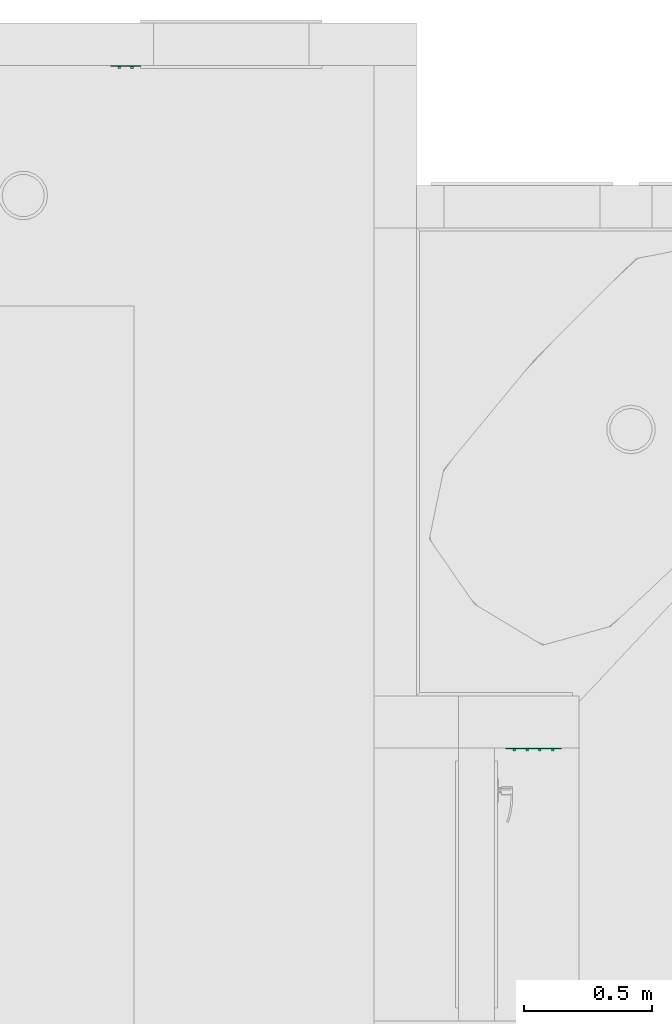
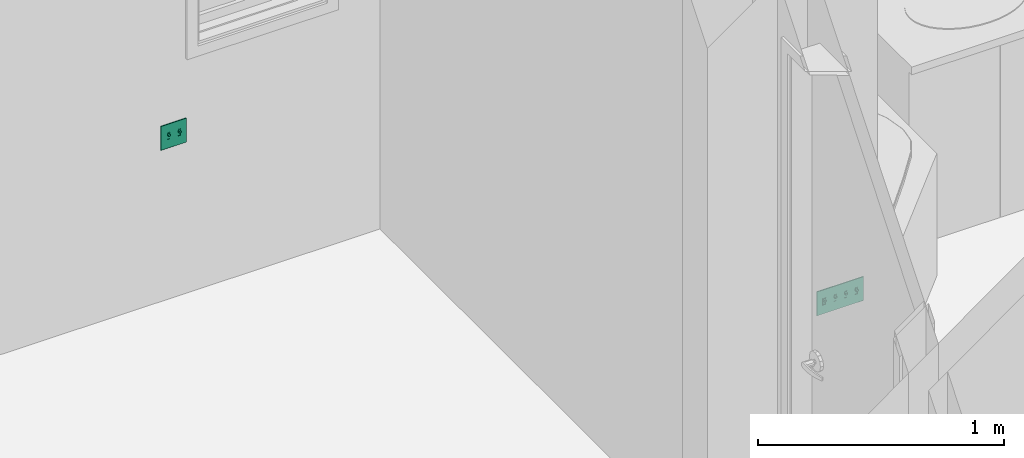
# One storey, part 25 of 103: 2 flow controllers.
"""IFC2X3 building model written with IfcOpenShell, lengths in inches."""

from ifc_helpers import new_model, entity, si_unit, converted_unit, derived_unit, money_unit, direction, frame, origin_with_axes, place, context, subcontext, project, spatial, faceted_brep, source, transform, mapped, type_object, element, save


model = new_model("IFC2X3")

# Units and contexts
model_context = context("Model", 3, precision=0.00039370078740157, world=origin_with_axes(), true_north=direction((0.0, 1.0)))
plan_context = context("Plan", 3, precision=0.00039370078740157, world=origin_with_axes(), true_north=direction((0.0, 1.0)))
body_context = subcontext(model_context, "Body", "Model", "MODEL_VIEW")
ifc_project = project(units=[converted_unit("LENGTHUNIT", "INCH", entity("IfcPositiveLengthMeasure", 0.0254), si_unit("LENGTHUNIT", "METRE"), dimensions=[1, 0, 0, 0, 0, 0, 0]), converted_unit("AREAUNIT", "SQUARE_FOOT", entity("IfcPositiveLengthMeasure", 0.09290304), si_unit("AREAUNIT", "SQUARE_METRE"), dimensions=[2, 0, 0, 0, 0, 0, 0]), si_unit("PLANEANGLEUNIT", "RADIAN"), si_unit("SOLIDANGLEUNIT", "STERADIAN"), money_unit("USD"), converted_unit("TIMEUNIT", "Year", entity("IfcTimeMeasure", 31557600.0), si_unit("TIMEUNIT", "SECOND"), dimensions=[0, 0, 1, 0, 0, 0, 0]), si_unit("MASSUNIT", "GRAM", prefix="KILO"), si_unit("THERMODYNAMICTEMPERATUREUNIT", "DEGREE_CELSIUS"), si_unit("LUMINOUSINTENSITYUNIT", "LUMEN"), si_unit("ENERGYUNIT", "JOULE", prefix="MEGA"), derived_unit("SPECIFICHEATCAPACITYUNIT", [(si_unit("ENERGYUNIT", "JOULE"), 1), (si_unit("MASSUNIT", "GRAM", prefix="KILO"), -1), (si_unit("THERMODYNAMICTEMPERATUREUNIT", "KELVIN"), -1)])], contexts=[model_context, plan_context])

# Site, building, storey
site_placement = place(None, origin_with_axes())
site = spatial("IfcSite", under=ifc_project, at=site_placement, Name="Site", CompositionType="ELEMENT")
building_placement = place(site_placement, origin_with_axes())
building = spatial("IfcBuilding", under=site, at=building_placement, Name="Building", CompositionType="ELEMENT")
storey_placement = place(building_placement, frame((0.0, 0.0, 127.9999999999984), z_axis=(0.0, 0.0, 1.0), x_axis=(1.0, 0.0, 0.0)))
storey = spatial("IfcBuildingStorey", under=building, at=storey_placement, Name="Second Floor", CompositionType="ELEMENT", Elevation=128.0)

# Flow controllers
switching_device_type = type_object("IfcSwitchingDeviceType", Name="Switch US", PredefinedType="NOTDEFINED")
shared_shape_1 = source(origin_with_axes(), body_context, "Body", "Brep", [
    faceted_brep([(3.14960629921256, 0.0, -0.5905511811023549), (2.755905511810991, 0.0, -0.5905511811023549), (2.755905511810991, 0.0, 0.5905511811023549), (3.14960629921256, 0.0, 0.5905511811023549), (3.14960629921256, -0.1033464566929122, -0.5905511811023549), (2.755905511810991, -0.1033464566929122, -0.5905511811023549), (2.755905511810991, -0.1033464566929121, 0.157480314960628), (2.755905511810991, -0.4970472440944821, 0.1574803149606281), (2.755905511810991, -0.4970472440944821, 0.472440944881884), (2.755905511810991, -0.1033464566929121, 0.472440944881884), (2.755905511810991, -0.1033464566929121, 0.5905511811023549), (3.14960629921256, -0.103346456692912, 0.5905511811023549), (3.14960629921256, -0.1033464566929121, 0.472440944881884), (3.14960629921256, -0.4970472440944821, 0.472440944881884), (3.14960629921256, -0.4970472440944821, 0.1574803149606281), (3.14960629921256, -0.1033464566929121, 0.157480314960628)], [[[0, 1, 2, 3]], [[4, 5, 1, 0]], [[1, 5, 6, 7, 8, 9, 10, 2]], [[3, 2, 10, 11]], [[0, 3, 11, 12, 13, 14, 15, 4]], [[15, 6, 5, 4]], [[14, 7, 6, 15]], [[13, 8, 7, 14]], [[12, 9, 8, 13]], [[11, 10, 9, 12]]]),
    faceted_brep([(3.228346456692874, 0.0, -0.669291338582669), (3.228346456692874, -0.1771653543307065, -0.669291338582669), (2.677165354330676, -0.1771653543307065, -0.669291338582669), (2.677165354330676, 0.0, -0.669291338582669), (3.228346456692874, 0.0, 0.669291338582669), (3.228346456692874, -0.1771653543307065, 0.669291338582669), (2.677165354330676, -0.1771653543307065, 0.669291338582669), (3.14960629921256, -0.1771653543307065, -0.5905511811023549), (2.75590551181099, -0.1771653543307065, -0.5905511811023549), (2.75590551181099, -0.1771653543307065, 0.5905511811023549), (3.14960629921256, -0.1771653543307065, 0.5905511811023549), (2.677165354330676, 0.0, 0.669291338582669), (3.14960629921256, 0.0, -0.5905511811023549), (3.14960629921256, 0.0, 0.5905511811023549), (2.75590551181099, 0.0, 0.5905511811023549), (2.75590551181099, 0.0, -0.5905511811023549)], [[[0, 1, 2, 3]], [[4, 5, 1, 0]], [[1, 5, 6, 2], [7, 8, 9, 10]], [[3, 2, 6, 11]], [[0, 3, 11, 4], [12, 13, 14, 15]], [[11, 6, 5, 4]], [[15, 8, 7, 12]], [[14, 9, 8, 15]], [[13, 10, 9, 14]], [[12, 7, 10, 13]]]),
    faceted_brep([(1.968503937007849, -0.103346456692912, 2.362204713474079), (4.330708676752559, -0.103346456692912, 2.362204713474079), (4.330708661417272, 0.0, 2.36220472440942), (1.968503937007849, 0.0, 2.36220472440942), (1.968503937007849, -0.1122624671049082, 2.361030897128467), (4.329534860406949, -0.1122624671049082, 2.361030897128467), (4.330708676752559, -0.1033464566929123, -2.36220473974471), (4.330708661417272, 0.0, -2.36220472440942), (1.968503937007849, 0.0, -2.36220472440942), (2.677165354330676, 0.0, -0.669291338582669), (3.228346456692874, 0.0, -0.669291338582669), (3.228346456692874, 0.0, 0.669291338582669), (2.677165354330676, 0.0, 0.669291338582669), (1.968503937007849, -0.1033464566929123, -2.36220473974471), (1.968503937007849, -0.1122624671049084, -2.361030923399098), (1.968503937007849, -0.1277054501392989, -2.352114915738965), (1.968503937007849, -0.1366214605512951, -2.336671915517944), (1.968503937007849, -0.1377952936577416, -2.327755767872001), (1.968503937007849, -0.1377952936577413, 2.32775574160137), (1.968503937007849, -0.1366214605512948, 2.336671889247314), (1.968503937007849, -0.1277054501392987, 2.352114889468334), (4.320618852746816, -0.1277054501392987, 2.352114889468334), (4.329534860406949, -0.1122624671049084, -2.361030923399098), (2.677165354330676, -0.1377952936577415, -0.669291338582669), (3.228346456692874, -0.1377952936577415, -0.669291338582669), (3.228346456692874, -0.1377952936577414, 0.669291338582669), (2.677165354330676, -0.1377952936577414, 0.669291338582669), (4.320618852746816, -0.1277054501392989, -2.352114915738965), (4.305175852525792, -0.1366214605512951, -2.336671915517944), (4.296259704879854, -0.1377952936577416, -2.327755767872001), (4.296259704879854, -0.1377952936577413, 2.32775574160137), (4.305175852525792, -0.1366214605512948, 2.336671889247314)], [[[0, 1, 2, 3]], [[4, 5, 1, 0]], [[6, 7, 2, 1]], [[3, 2, 7, 8], [9, 10, 11, 12]], [[8, 13, 14, 15, 16, 17, 18, 19, 20, 4, 0, 3]], [[20, 21, 5, 4]], [[22, 6, 1, 5]], [[8, 7, 6, 13]], [[10, 9, 23, 24]], [[11, 10, 24, 25]], [[12, 11, 25, 26]], [[9, 12, 26, 23]], [[13, 6, 22, 14]], [[14, 22, 27, 15]], [[15, 27, 28, 16]], [[16, 28, 29, 17]], [[17, 29, 30, 18], [25, 24, 23, 26]], [[18, 30, 31, 19]], [[19, 31, 21, 20]], [[27, 22, 5, 21]], [[28, 27, 21, 31]], [[29, 28, 31, 30]]]),
    faceted_brep([(1.18110236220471, 0.0, -0.5905511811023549), (0.7874015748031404, 0.0, -0.5905511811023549), (0.7874015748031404, 0.0, 0.5905511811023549), (1.18110236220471, 0.0, 0.5905511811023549), (1.18110236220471, -0.1033464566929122, -0.5905511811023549), (0.7874015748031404, -0.1033464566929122, -0.5905511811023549), (0.7874015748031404, -0.1033464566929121, 0.157480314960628), (0.7874015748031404, -0.4970472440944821, 0.1574803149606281), (0.7874015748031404, -0.4970472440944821, 0.472440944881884), (0.7874015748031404, -0.1033464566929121, 0.472440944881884), (0.7874015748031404, -0.1033464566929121, 0.5905511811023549), (1.18110236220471, -0.103346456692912, 0.5905511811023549), (1.18110236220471, -0.1033464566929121, 0.472440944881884), (1.18110236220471, -0.4970472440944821, 0.472440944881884), (1.18110236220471, -0.4970472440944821, 0.1574803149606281), (1.18110236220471, -0.1033464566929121, 0.157480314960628)], [[[0, 1, 2, 3]], [[4, 5, 1, 0]], [[1, 5, 6, 7, 8, 9, 10, 2]], [[3, 2, 10, 11]], [[0, 3, 11, 12, 13, 14, 15, 4]], [[15, 6, 5, 4]], [[14, 7, 6, 15]], [[13, 8, 7, 14]], [[12, 9, 8, 13]], [[11, 10, 9, 12]]]),
    faceted_brep([(1.259842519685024, 0.0, -0.669291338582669), (1.259842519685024, -0.1771653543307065, -0.669291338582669), (0.7086614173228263, -0.1771653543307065, -0.669291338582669), (0.7086614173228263, 0.0, -0.669291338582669), (1.259842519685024, 0.0, 0.669291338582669), (1.259842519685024, -0.1771653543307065, 0.669291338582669), (0.7086614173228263, -0.1771653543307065, 0.669291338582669), (1.18110236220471, -0.1771653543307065, -0.5905511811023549), (0.7874015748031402, -0.1771653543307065, -0.5905511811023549), (0.7874015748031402, -0.1771653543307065, 0.5905511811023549), (1.18110236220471, -0.1771653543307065, 0.5905511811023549), (0.7086614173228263, 0.0, 0.669291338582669), (1.18110236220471, 0.0, -0.5905511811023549), (1.18110236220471, 0.0, 0.5905511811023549), (0.7874015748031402, 0.0, 0.5905511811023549), (0.7874015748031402, 0.0, -0.5905511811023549)], [[[0, 1, 2, 3]], [[4, 5, 1, 0]], [[1, 5, 6, 2], [7, 8, 9, 10]], [[3, 2, 6, 11]], [[0, 3, 11, 4], [12, 13, 14, 15]], [[11, 6, 5, 4]], [[15, 8, 7, 12]], [[14, 9, 8, 15]], [[13, 10, 9, 14]], [[12, 7, 10, 13]]]),
    faceted_brep([(1.968503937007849, 0.0, -2.36220472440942), (0.0, 0.0, -2.36220472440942), (0.0, 0.0, 2.36220472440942), (1.968503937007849, 0.0, 2.36220472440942), (0.7086614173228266, 0.0, 0.669291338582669), (0.7086614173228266, 0.0, -0.669291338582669), (1.259842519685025, 0.0, -0.669291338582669), (1.259842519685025, 0.0, 0.669291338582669), (1.968503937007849, -0.1033464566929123, -2.36220473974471), (0.0, -0.1033464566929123, -2.36220473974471), (0.0, -0.1277054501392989, -2.352114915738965), (0.0, -0.1366214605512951, -2.336671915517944), (0.0, -0.1377952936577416, -2.327755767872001), (0.0, -0.1377952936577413, 2.32775574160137), (0.0, -0.1366214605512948, 2.336671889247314), (0.0, -0.1277054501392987, 2.352114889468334), (0.0, -0.1122624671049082, 2.361030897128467), (0.0, -0.103346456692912, 2.362204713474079), (0.0, -0.1122624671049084, -2.361030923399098), (1.968503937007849, -0.103346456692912, 2.362204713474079), (1.968503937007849, -0.1122624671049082, 2.361030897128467), (1.968503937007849, -0.1277054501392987, 2.352114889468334), (1.968503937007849, -0.1366214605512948, 2.336671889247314), (1.968503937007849, -0.1377952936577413, 2.32775574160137), (1.968503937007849, -0.1377952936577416, -2.327755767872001), (1.968503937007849, -0.1366214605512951, -2.336671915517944), (1.968503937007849, -0.1277054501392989, -2.352114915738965), (1.968503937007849, -0.1122624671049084, -2.361030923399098), (0.7086614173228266, -0.1377952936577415, -0.669291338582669), (0.7086614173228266, -0.1377952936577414, 0.669291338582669), (1.259842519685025, -0.1377952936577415, -0.669291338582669), (1.259842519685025, -0.1377952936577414, 0.669291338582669)], [[[0, 1, 2, 3], [4, 5, 6, 7]], [[8, 9, 1, 0]], [[10, 11, 12, 13, 14, 15, 16, 17, 2, 1, 9, 18]], [[3, 2, 17, 19]], [[19, 20, 21, 22, 23, 24, 25, 26, 27, 8, 0, 3]], [[28, 5, 4, 29]], [[30, 6, 5, 28]], [[31, 7, 6, 30]], [[29, 4, 7, 31]], [[27, 18, 9, 8]], [[25, 11, 10, 26]], [[24, 12, 11, 25]], [[23, 13, 12, 24], [29, 31, 30, 28]], [[22, 14, 13, 23]], [[21, 15, 14, 22]], [[20, 16, 15, 21]], [[19, 17, 16, 20]], [[26, 10, 18, 27]]]),
    faceted_brep([(-0.7874015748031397, 0.0, -0.5905511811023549), (-1.18110236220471, 0.0, -0.5905511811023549), (-1.18110236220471, 0.0, 0.5905511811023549), (-0.7874015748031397, 0.0, 0.5905511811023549), (-0.7874015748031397, -0.1033464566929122, -0.5905511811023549), (-1.18110236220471, -0.1033464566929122, -0.5905511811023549), (-1.18110236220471, -0.1033464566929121, 0.157480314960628), (-1.18110236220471, -0.4970472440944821, 0.1574803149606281), (-1.18110236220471, -0.4970472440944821, 0.472440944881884), (-1.18110236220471, -0.1033464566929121, 0.472440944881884), (-1.18110236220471, -0.1033464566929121, 0.5905511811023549), (-0.7874015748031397, -0.103346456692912, 0.5905511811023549), (-0.7874015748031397, -0.1033464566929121, 0.472440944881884), (-0.7874015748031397, -0.4970472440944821, 0.472440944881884), (-0.7874015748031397, -0.4970472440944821, 0.1574803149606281), (-0.7874015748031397, -0.1033464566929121, 0.157480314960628)], [[[0, 1, 2, 3]], [[4, 5, 1, 0]], [[1, 5, 6, 7, 8, 9, 10, 2]], [[3, 2, 10, 11]], [[0, 3, 11, 12, 13, 14, 15, 4]], [[15, 6, 5, 4]], [[14, 7, 6, 15]], [[13, 8, 7, 14]], [[12, 9, 8, 13]], [[11, 10, 9, 12]]]),
    faceted_brep([(-0.7086614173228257, 0.0, -0.669291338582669), (-0.7086614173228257, -0.1771653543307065, -0.669291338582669), (-1.259842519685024, -0.1771653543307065, -0.669291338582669), (-1.259842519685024, 0.0, -0.669291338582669), (-0.7086614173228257, 0.0, 0.669291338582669), (-0.7086614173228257, -0.1771653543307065, 0.669291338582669), (-1.259842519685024, -0.1771653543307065, 0.669291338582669), (-0.7874015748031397, -0.1771653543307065, -0.5905511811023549), (-1.18110236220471, -0.1771653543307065, -0.5905511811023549), (-1.18110236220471, -0.1771653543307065, 0.5905511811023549), (-0.7874015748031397, -0.1771653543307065, 0.5905511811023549), (-1.259842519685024, 0.0, 0.669291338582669), (-0.7874015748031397, 0.0, -0.5905511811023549), (-0.7874015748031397, 0.0, 0.5905511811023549), (-1.18110236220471, 0.0, 0.5905511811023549), (-1.18110236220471, 0.0, -0.5905511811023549)], [[[0, 1, 2, 3]], [[4, 5, 1, 0]], [[1, 5, 6, 2], [7, 8, 9, 10]], [[3, 2, 6, 11]], [[0, 3, 11, 4], [12, 13, 14, 15]], [[11, 6, 5, 4]], [[15, 8, 7, 12]], [[14, 9, 8, 15]], [[13, 10, 9, 14]], [[12, 7, 10, 13]]]),
    faceted_brep([(0.0, 0.0, -2.36220472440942), (-1.968503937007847, 0.0, -2.36220472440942), (-1.968503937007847, 0.0, 2.36220472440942), (0.0, 0.0, 2.36220472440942), (-1.259842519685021, 0.0, 0.669291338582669), (-1.259842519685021, 0.0, -0.669291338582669), (-0.7086614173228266, 0.0, -0.669291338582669), (-0.7086614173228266, 0.0, 0.669291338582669), (0.0, -0.1033464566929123, -2.36220473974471), (-1.968503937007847, -0.1033464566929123, -2.36220473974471), (-1.968503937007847, -0.1277054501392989, -2.352114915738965), (-1.968503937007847, -0.1366214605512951, -2.336671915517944), (-1.968503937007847, -0.1377952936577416, -2.327755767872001), (-1.968503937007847, -0.1377952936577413, 2.32775574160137), (-1.968503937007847, -0.1366214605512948, 2.336671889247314), (-1.968503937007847, -0.1277054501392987, 2.352114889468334), (-1.968503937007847, -0.1122624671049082, 2.361030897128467), (-1.968503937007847, -0.103346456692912, 2.362204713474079), (-1.968503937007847, -0.1122624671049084, -2.361030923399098), (0.0, -0.103346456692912, 2.362204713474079), (0.0, -0.1122624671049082, 2.361030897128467), (0.0, -0.1277054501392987, 2.352114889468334), (0.0, -0.1366214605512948, 2.336671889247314), (0.0, -0.1377952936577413, 2.32775574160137), (0.0, -0.1377952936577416, -2.327755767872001), (0.0, -0.1366214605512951, -2.336671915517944), (0.0, -0.1277054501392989, -2.352114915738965), (0.0, -0.1122624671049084, -2.361030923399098), (-1.259842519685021, -0.1377952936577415, -0.669291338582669), (-1.259842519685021, -0.1377952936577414, 0.669291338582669), (-0.7086614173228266, -0.1377952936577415, -0.669291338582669), (-0.7086614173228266, -0.1377952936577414, 0.669291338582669)], [[[0, 1, 2, 3], [4, 5, 6, 7]], [[8, 9, 1, 0]], [[10, 11, 12, 13, 14, 15, 16, 17, 2, 1, 9, 18]], [[3, 2, 17, 19]], [[19, 20, 21, 22, 23, 24, 25, 26, 27, 8, 0, 3]], [[28, 5, 4, 29]], [[30, 6, 5, 28]], [[31, 7, 6, 30]], [[29, 4, 7, 31]], [[27, 18, 9, 8]], [[25, 11, 10, 26]], [[24, 12, 11, 25]], [[23, 13, 12, 24], [29, 31, 30, 28]], [[22, 14, 13, 23]], [[21, 15, 14, 22]], [[20, 16, 15, 21]], [[19, 17, 16, 20]], [[26, 10, 18, 27]]]),
    faceted_brep([(-2.755905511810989, 0.0, -0.5905511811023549), (-3.14960629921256, 0.0, -0.5905511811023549), (-3.14960629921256, 0.0, 0.5905511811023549), (-2.755905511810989, 0.0, 0.5905511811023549), (-2.755905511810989, -0.1033464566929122, -0.5905511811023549), (-3.14960629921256, -0.1033464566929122, -0.5905511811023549), (-3.14960629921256, -0.1033464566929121, 0.157480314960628), (-3.14960629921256, -0.4970472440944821, 0.1574803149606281), (-3.14960629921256, -0.4970472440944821, 0.472440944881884), (-3.14960629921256, -0.1033464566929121, 0.472440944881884), (-3.14960629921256, -0.1033464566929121, 0.5905511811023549), (-2.755905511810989, -0.103346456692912, 0.5905511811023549), (-2.755905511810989, -0.1033464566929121, 0.472440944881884), (-2.755905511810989, -0.4970472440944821, 0.472440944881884), (-2.755905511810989, -0.4970472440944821, 0.1574803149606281), (-2.755905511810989, -0.1033464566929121, 0.157480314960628)], [[[0, 1, 2, 3]], [[4, 5, 1, 0]], [[1, 5, 6, 7, 8, 9, 10, 2]], [[3, 2, 10, 11]], [[0, 3, 11, 12, 13, 14, 15, 4]], [[15, 6, 5, 4]], [[14, 7, 6, 15]], [[13, 8, 7, 14]], [[12, 9, 8, 13]], [[11, 10, 9, 12]]]),
    faceted_brep([(-2.677165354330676, 0.0, -0.669291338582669), (-2.677165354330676, -0.1771653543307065, -0.669291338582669), (-3.228346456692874, -0.1771653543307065, -0.669291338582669), (-3.228346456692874, 0.0, -0.669291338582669), (-2.677165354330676, 0.0, 0.669291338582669), (-2.677165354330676, -0.1771653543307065, 0.669291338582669), (-3.228346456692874, -0.1771653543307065, 0.669291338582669), (-2.75590551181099, -0.1771653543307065, -0.5905511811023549), (-3.14960629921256, -0.1771653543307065, -0.5905511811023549), (-3.14960629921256, -0.1771653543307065, 0.5905511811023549), (-2.75590551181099, -0.1771653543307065, 0.5905511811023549), (-3.228346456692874, 0.0, 0.669291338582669), (-2.75590551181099, 0.0, -0.5905511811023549), (-2.75590551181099, 0.0, 0.5905511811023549), (-3.14960629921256, 0.0, 0.5905511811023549), (-3.14960629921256, 0.0, -0.5905511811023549)], [[[0, 1, 2, 3]], [[4, 5, 1, 0]], [[1, 5, 6, 2], [7, 8, 9, 10]], [[3, 2, 6, 11]], [[0, 3, 11, 4], [12, 13, 14, 15]], [[11, 6, 5, 4]], [[15, 8, 7, 12]], [[14, 9, 8, 15]], [[13, 10, 9, 14]], [[12, 7, 10, 13]]]),
    faceted_brep([(-1.968503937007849, 0.0, -2.36220472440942), (-4.330708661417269, 0.0, -2.36220472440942), (-4.330708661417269, 0.0, 2.36220472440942), (-1.968503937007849, 0.0, 2.36220472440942), (-3.228346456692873, 0.0, -0.669291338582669), (-2.677165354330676, 0.0, -0.669291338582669), (-2.677165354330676, 0.0, 0.669291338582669), (-3.228346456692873, 0.0, 0.669291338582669), (-1.968503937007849, -0.1033464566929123, -2.36220473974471), (-4.330708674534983, -0.1033464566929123, -2.36220473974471), (-4.330708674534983, -0.103346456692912, 2.362204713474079), (-1.968503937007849, -0.103346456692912, 2.362204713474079), (-1.968503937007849, -0.1122624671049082, 2.361030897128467), (-1.968503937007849, -0.1277054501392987, 2.352114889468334), (-1.968503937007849, -0.1366214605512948, 2.336671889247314), (-1.968503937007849, -0.1377952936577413, 2.32775574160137), (-1.968503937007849, -0.1377952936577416, -2.327755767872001), (-1.968503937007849, -0.1366214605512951, -2.336671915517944), (-1.968503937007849, -0.1277054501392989, -2.352114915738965), (-1.968503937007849, -0.1122624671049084, -2.361030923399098), (-3.228346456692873, -0.1377952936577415, -0.669291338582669), (-2.677165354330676, -0.1377952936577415, -0.669291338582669), (-2.677165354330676, -0.1377952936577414, 0.669291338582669), (-3.228346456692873, -0.1377952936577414, 0.669291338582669), (-4.329534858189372, -0.1122624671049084, -2.361030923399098), (-4.329534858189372, -0.1122624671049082, 2.361030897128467), (-4.32061885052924, -0.1277054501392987, 2.352114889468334), (-4.30517585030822, -0.1366214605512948, 2.336671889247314), (-4.296259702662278, -0.1377952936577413, 2.32775574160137), (-4.296259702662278, -0.1377952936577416, -2.327755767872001), (-4.30517585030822, -0.1366214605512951, -2.336671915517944), (-4.32061885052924, -0.1277054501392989, -2.352114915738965)], [[[0, 1, 2, 3], [4, 5, 6, 7]], [[8, 9, 1, 0]], [[10, 2, 1, 9]], [[3, 2, 10, 11]], [[11, 12, 13, 14, 15, 16, 17, 18, 19, 8, 0, 3]], [[5, 4, 20, 21]], [[6, 5, 21, 22]], [[7, 6, 22, 23]], [[4, 7, 23, 20]], [[19, 24, 9, 8]], [[25, 10, 9, 24]], [[11, 10, 25, 12]], [[12, 25, 26, 13]], [[13, 26, 27, 14]], [[14, 27, 28, 15]], [[15, 28, 29, 16], [22, 21, 20, 23]], [[16, 29, 30, 17]], [[17, 30, 31, 18]], [[18, 31, 24, 19]], [[26, 25, 24, 31]], [[27, 26, 31, 30]], [[28, 27, 30, 29]]]),
])
flow_controller_1_placement = place(storey_placement, frame((-51.25001042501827, 489.9999868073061, 41.99999999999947), z_axis=(0.0, 0.0, 1.0), x_axis=(0.9999999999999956, 9.406550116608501e-08, 0.0)))
element("IfcFlowController", 1, at=flow_controller_1_placement, inside=storey, type_object=switching_device_type, Name="OBJ-09", context=body_context, shape_type="MappedRepresentation", body=[
    mapped(shared_shape_1, transform((0.0, 0.0, 0.0))),
])
shared_shape_2 = source(origin_with_axes(), body_context, "Body", "Brep", [
    faceted_brep([(1.18110236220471, 0.0, -0.5905511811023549), (0.7874015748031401, 0.0, -0.5905511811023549), (0.7874015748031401, 0.0, 0.5905511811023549), (1.18110236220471, 0.0, 0.5905511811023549), (1.18110236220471, -0.1033464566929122, -0.5905511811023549), (0.7874015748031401, -0.1033464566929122, -0.5905511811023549), (0.7874015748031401, -0.1033464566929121, 0.157480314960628), (0.7874015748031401, -0.4970472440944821, 0.1574803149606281), (0.7874015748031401, -0.4970472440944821, 0.472440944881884), (0.7874015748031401, -0.1033464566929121, 0.472440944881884), (0.7874015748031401, -0.1033464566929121, 0.5905511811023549), (1.18110236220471, -0.103346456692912, 0.5905511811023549), (1.18110236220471, -0.1033464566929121, 0.472440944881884), (1.18110236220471, -0.4970472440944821, 0.472440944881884), (1.18110236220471, -0.4970472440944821, 0.1574803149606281), (1.18110236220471, -0.1033464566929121, 0.157480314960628)], [[[0, 1, 2, 3]], [[4, 5, 1, 0]], [[1, 5, 6, 7, 8, 9, 10, 2]], [[3, 2, 10, 11]], [[0, 3, 11, 12, 13, 14, 15, 4]], [[15, 6, 5, 4]], [[14, 7, 6, 15]], [[13, 8, 7, 14]], [[12, 9, 8, 13]], [[11, 10, 9, 12]]]),
    faceted_brep([(1.259842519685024, 0.0, -0.669291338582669), (1.259842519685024, -0.1771653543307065, -0.669291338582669), (0.7086614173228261, -0.1771653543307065, -0.669291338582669), (0.7086614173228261, 0.0, -0.669291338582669), (1.259842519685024, 0.0, 0.669291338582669), (1.259842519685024, -0.1771653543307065, 0.669291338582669), (0.7086614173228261, -0.1771653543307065, 0.669291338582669), (1.18110236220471, -0.1771653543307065, -0.5905511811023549), (0.78740157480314, -0.1771653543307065, -0.5905511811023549), (0.78740157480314, -0.1771653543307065, 0.5905511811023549), (1.18110236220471, -0.1771653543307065, 0.5905511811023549), (0.7086614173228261, 0.0, 0.669291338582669), (1.18110236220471, 0.0, -0.5905511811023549), (1.18110236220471, 0.0, 0.5905511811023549), (0.78740157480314, 0.0, 0.5905511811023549), (0.78740157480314, 0.0, -0.5905511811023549)], [[[0, 1, 2, 3]], [[4, 5, 1, 0]], [[1, 5, 6, 2], [7, 8, 9, 10]], [[3, 2, 6, 11]], [[0, 3, 11, 4], [12, 13, 14, 15]], [[11, 6, 5, 4]], [[15, 8, 7, 12]], [[14, 9, 8, 15]], [[13, 10, 9, 14]], [[12, 7, 10, 13]]]),
    faceted_brep([(0.0, -0.103346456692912, 2.362204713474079), (2.362204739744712, -0.103346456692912, 2.362204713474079), (2.36220472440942, 0.0, 2.36220472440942), (0.0, 0.0, 2.36220472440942), (0.0, -0.1122624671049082, 2.361030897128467), (2.361030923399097, -0.1122624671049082, 2.361030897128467), (2.362204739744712, -0.1033464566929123, -2.36220473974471), (2.36220472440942, 0.0, -2.36220472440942), (0.0, 0.0, -2.36220472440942), (0.7086614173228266, 0.0, -0.669291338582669), (1.259842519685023, 0.0, -0.669291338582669), (1.259842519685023, 0.0, 0.669291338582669), (0.7086614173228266, 0.0, 0.669291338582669), (0.0, -0.1033464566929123, -2.36220473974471), (0.0, -0.1122624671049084, -2.361030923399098), (0.0, -0.1277054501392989, -2.352114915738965), (0.0, -0.1366214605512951, -2.336671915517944), (0.0, -0.1377952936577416, -2.327755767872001), (0.0, -0.1377952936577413, 2.32775574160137), (0.0, -0.1366214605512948, 2.336671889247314), (0.0, -0.1277054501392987, 2.352114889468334), (2.352114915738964, -0.1277054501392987, 2.352114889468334), (2.361030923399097, -0.1122624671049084, -2.361030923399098), (0.7086614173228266, -0.1377952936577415, -0.669291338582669), (1.259842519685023, -0.1377952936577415, -0.669291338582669), (1.259842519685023, -0.1377952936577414, 0.669291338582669), (0.7086614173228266, -0.1377952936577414, 0.669291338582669), (2.352114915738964, -0.1277054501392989, -2.352114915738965), (2.336671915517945, -0.1366214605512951, -2.336671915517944), (2.327755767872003, -0.1377952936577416, -2.327755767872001), (2.327755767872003, -0.1377952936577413, 2.32775574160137), (2.336671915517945, -0.1366214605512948, 2.336671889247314)], [[[0, 1, 2, 3]], [[4, 5, 1, 0]], [[6, 7, 2, 1]], [[3, 2, 7, 8], [9, 10, 11, 12]], [[8, 13, 14, 15, 16, 17, 18, 19, 20, 4, 0, 3]], [[20, 21, 5, 4]], [[22, 6, 1, 5]], [[8, 7, 6, 13]], [[10, 9, 23, 24]], [[11, 10, 24, 25]], [[12, 11, 25, 26]], [[9, 12, 26, 23]], [[13, 6, 22, 14]], [[14, 22, 27, 15]], [[15, 27, 28, 16]], [[16, 28, 29, 17]], [[17, 29, 30, 18], [25, 24, 23, 26]], [[18, 30, 31, 19]], [[19, 31, 21, 20]], [[27, 22, 5, 21]], [[28, 27, 21, 31]], [[29, 28, 31, 30]]]),
    faceted_brep([(-0.78740157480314, 0.0, -0.5905511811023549), (-1.18110236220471, 0.0, -0.5905511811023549), (-1.18110236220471, 0.0, 0.5905511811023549), (-0.78740157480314, 0.0, 0.5905511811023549), (-0.78740157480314, -0.1033464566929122, -0.5905511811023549), (-1.18110236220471, -0.1033464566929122, -0.5905511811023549), (-1.18110236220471, -0.1033464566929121, 0.157480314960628), (-1.18110236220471, -0.4970472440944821, 0.1574803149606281), (-1.18110236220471, -0.4970472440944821, 0.472440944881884), (-1.18110236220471, -0.1033464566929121, 0.472440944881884), (-1.18110236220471, -0.1033464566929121, 0.5905511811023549), (-0.78740157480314, -0.103346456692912, 0.5905511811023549), (-0.78740157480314, -0.1033464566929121, 0.472440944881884), (-0.78740157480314, -0.4970472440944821, 0.472440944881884), (-0.78740157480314, -0.4970472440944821, 0.1574803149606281), (-0.78740157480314, -0.1033464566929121, 0.157480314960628)], [[[0, 1, 2, 3]], [[4, 5, 1, 0]], [[1, 5, 6, 7, 8, 9, 10, 2]], [[3, 2, 10, 11]], [[0, 3, 11, 12, 13, 14, 15, 4]], [[15, 6, 5, 4]], [[14, 7, 6, 15]], [[13, 8, 7, 14]], [[12, 9, 8, 13]], [[11, 10, 9, 12]]]),
    faceted_brep([(-0.7086614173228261, 0.0, -0.669291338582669), (-0.7086614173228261, -0.1771653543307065, -0.669291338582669), (-1.259842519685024, -0.1771653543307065, -0.669291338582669), (-1.259842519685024, 0.0, -0.669291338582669), (-0.7086614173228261, 0.0, 0.669291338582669), (-0.7086614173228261, -0.1771653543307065, 0.669291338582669), (-1.259842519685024, -0.1771653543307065, 0.669291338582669), (-0.78740157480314, -0.1771653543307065, -0.5905511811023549), (-1.18110236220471, -0.1771653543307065, -0.5905511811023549), (-1.18110236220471, -0.1771653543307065, 0.5905511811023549), (-0.78740157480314, -0.1771653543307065, 0.5905511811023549), (-1.259842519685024, 0.0, 0.669291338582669), (-0.78740157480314, 0.0, -0.5905511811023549), (-0.78740157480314, 0.0, 0.5905511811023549), (-1.18110236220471, 0.0, 0.5905511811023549), (-1.18110236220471, 0.0, -0.5905511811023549)], [[[0, 1, 2, 3]], [[4, 5, 1, 0]], [[1, 5, 6, 2], [7, 8, 9, 10]], [[3, 2, 6, 11]], [[0, 3, 11, 4], [12, 13, 14, 15]], [[11, 6, 5, 4]], [[15, 8, 7, 12]], [[14, 9, 8, 15]], [[13, 10, 9, 14]], [[12, 7, 10, 13]]]),
    faceted_brep([(0.0, 0.0, -2.36220472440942), (-2.362204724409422, 0.0, -2.36220472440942), (-2.362204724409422, 0.0, 2.36220472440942), (0.0, 0.0, 2.36220472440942), (-1.259842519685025, 0.0, -0.669291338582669), (-0.7086614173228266, 0.0, -0.669291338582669), (-0.7086614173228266, 0.0, 0.669291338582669), (-1.259842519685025, 0.0, 0.669291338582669), (0.0, -0.1033464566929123, -2.36220473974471), (-2.362204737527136, -0.1033464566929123, -2.36220473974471), (-2.362204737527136, -0.103346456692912, 2.362204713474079), (0.0, -0.103346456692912, 2.362204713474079), (0.0, -0.1122624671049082, 2.361030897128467), (0.0, -0.1277054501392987, 2.352114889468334), (0.0, -0.1366214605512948, 2.336671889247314), (0.0, -0.1377952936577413, 2.32775574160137), (0.0, -0.1377952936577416, -2.327755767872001), (0.0, -0.1366214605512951, -2.336671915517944), (0.0, -0.1277054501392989, -2.352114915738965), (0.0, -0.1122624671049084, -2.361030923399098), (-1.259842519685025, -0.1377952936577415, -0.669291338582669), (-0.7086614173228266, -0.1377952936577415, -0.669291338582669), (-0.7086614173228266, -0.1377952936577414, 0.669291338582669), (-1.259842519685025, -0.1377952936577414, 0.669291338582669), (-2.361030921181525, -0.1122624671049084, -2.361030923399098), (-2.361030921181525, -0.1122624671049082, 2.361030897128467), (-2.352114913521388, -0.1277054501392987, 2.352114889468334), (-2.336671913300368, -0.1366214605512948, 2.336671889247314), (-2.327755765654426, -0.1377952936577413, 2.32775574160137), (-2.327755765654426, -0.1377952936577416, -2.327755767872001), (-2.336671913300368, -0.1366214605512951, -2.336671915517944), (-2.352114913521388, -0.1277054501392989, -2.352114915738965)], [[[0, 1, 2, 3], [4, 5, 6, 7]], [[8, 9, 1, 0]], [[10, 2, 1, 9]], [[3, 2, 10, 11]], [[11, 12, 13, 14, 15, 16, 17, 18, 19, 8, 0, 3]], [[5, 4, 20, 21]], [[6, 5, 21, 22]], [[7, 6, 22, 23]], [[4, 7, 23, 20]], [[19, 24, 9, 8]], [[25, 10, 9, 24]], [[11, 10, 25, 12]], [[12, 25, 26, 13]], [[13, 26, 27, 14]], [[14, 27, 28, 15]], [[15, 28, 29, 16], [22, 21, 20, 23]], [[16, 29, 30, 17]], [[17, 30, 31, 18]], [[18, 31, 24, 19]], [[26, 25, 24, 31]], [[27, 26, 31, 30]], [[28, 27, 30, 29]]]),
])
flow_controller_2_placement = place(storey_placement, frame((-113.9999999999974, 594.9999999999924, 31.99999999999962), z_axis=(0.0, 0.0, 1.0), x_axis=(1.0, 0.0, 0.0)))
element("IfcFlowController", 2, at=flow_controller_2_placement, inside=storey, type_object=switching_device_type, Name="OBJ-09", context=body_context, shape_type="MappedRepresentation", body=[
    mapped(shared_shape_2, transform((0.0, 0.0, 0.0))),
])

save(model, "model.ifc")
